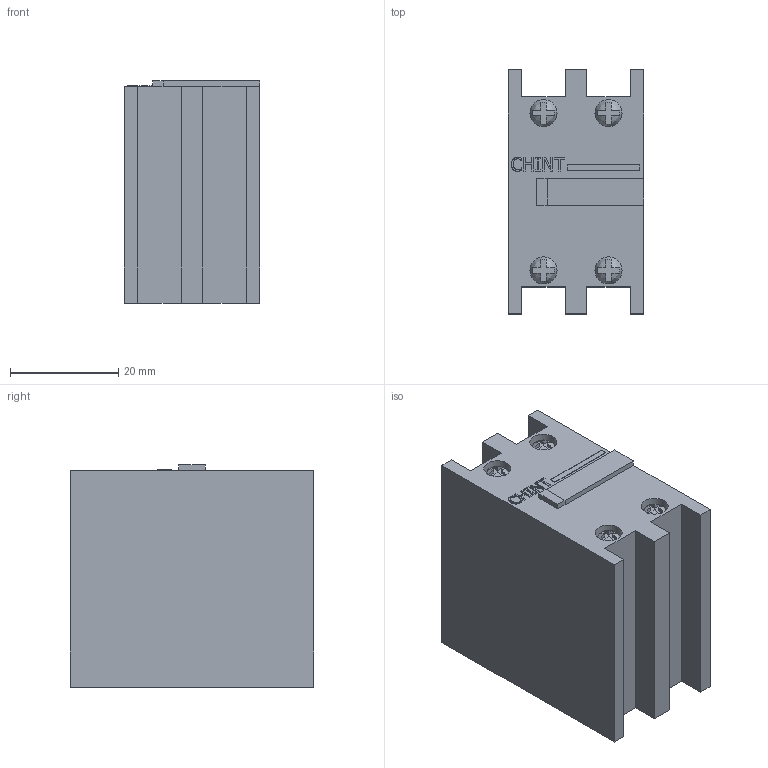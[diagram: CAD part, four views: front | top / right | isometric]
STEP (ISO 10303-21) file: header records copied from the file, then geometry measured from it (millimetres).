
FILE_DESCRIPTION(/* description */ (''),/* implementation_level */ '2;1');
FILE_NAME(/* name */ 'D:\CHINT2\NR2\Вспомогательный контакт F4-20.stp',/* time_stamp */ '2017-11-15T20:25:53+03:00',/* author */ ('RSagdiev'),/* organization */ (''),/* preprocessor_version */ 'ST-DEVELOPER v16.5',/* originating_system */ 'Autodesk Inventor 2017',/* authorisation */ '');
FILE_SCHEMA (('AUTOMOTIVE_DESIGN { 1 0 10303 214 3 1 1 }'));
Length unit declared in the file: millimetre
Products named in the file (1): \X2\04120441043F043E043C043E0433043004420435043B044C043D
044B0439\X0\ контакт F4-20
Bounding box: 25 x 45 x 41 mm (x, y, z)
Volume: 38619.5 mm3; surface area: 9743.9 mm2
Topology: 7 solids, 7 shells, 158 faces, 414 edges, 288 vertices
Faces by surface type: plane 134, bspline 20, cylinder 4
Full cylindrical faces by diameter (mm): 5 x4
Entity records: 5304 total; most frequent: CARTESIAN_POINT 1513, ORIENTED_EDGE 804, DIRECTION 656, EDGE_CURVE 402, LINE 306, VECTOR 306, VERTEX_POINT 272, AXIS2_PLACEMENT_3D 175
